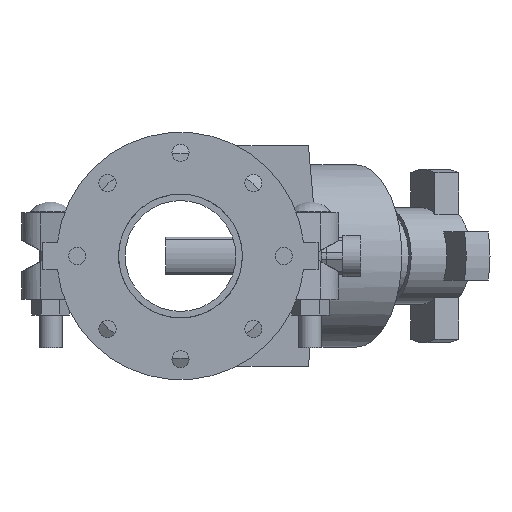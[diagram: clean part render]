
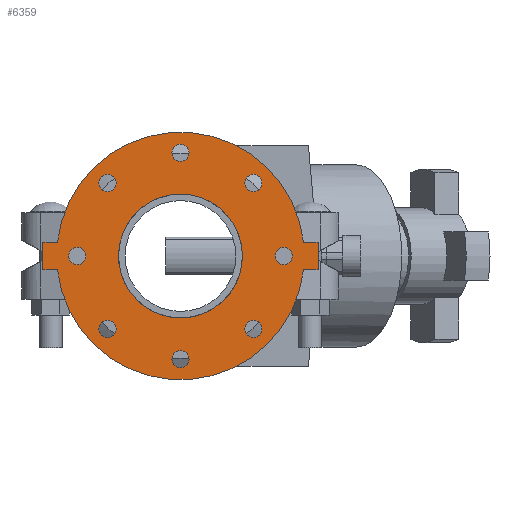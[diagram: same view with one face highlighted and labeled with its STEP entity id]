
A CAD part, front view. The second image highlights one B-rep face of the part: STEP entity #6359.
In plain terms, the highlighted planar face has unit normal (0, -1, 0) as drawn and (0, 0, 1) by its records, which use the part's own axes.
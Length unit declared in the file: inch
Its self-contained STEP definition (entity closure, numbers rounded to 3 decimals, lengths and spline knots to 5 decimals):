
#209=FACE_BOUND('',#843,.T.);
#210=FACE_BOUND('',#844,.T.);
#211=FACE_BOUND('',#845,.T.);
#212=FACE_BOUND('',#846,.T.);
#213=FACE_BOUND('',#847,.T.);
#214=FACE_BOUND('',#848,.T.);
#215=FACE_BOUND('',#849,.T.);
#216=FACE_BOUND('',#850,.T.);
#217=FACE_BOUND('',#851,.T.);
#280=PLANE('',#6926);
#489=FACE_OUTER_BOUND('',#842,.T.);
#842=EDGE_LOOP('',(#4145,#4146,#4147,#4148,#4149,#4150,#4151,#4152));
#843=EDGE_LOOP('',(#4153));
#844=EDGE_LOOP('',(#4154));
#845=EDGE_LOOP('',(#4155));
#846=EDGE_LOOP('',(#4156));
#847=EDGE_LOOP('',(#4157));
#848=EDGE_LOOP('',(#4158));
#849=EDGE_LOOP('',(#4159));
#850=EDGE_LOOP('',(#4160));
#851=EDGE_LOOP('',(#4161,#4162));
#1252=LINE('',#9754,#1722);
#1253=LINE('',#9757,#1723);
#1256=LINE('',#9762,#1726);
#1257=LINE('',#9765,#1727);
#1259=LINE('',#9768,#1729);
#1260=LINE('',#9770,#1730);
#1722=VECTOR('',#7750,0.3937);
#1723=VECTOR('',#7753,0.3937);
#1726=VECTOR('',#7758,0.3937);
#1727=VECTOR('',#7761,0.3937);
#1729=VECTOR('',#7765,0.3937);
#1730=VECTOR('',#7768,0.3937);
#2172=CIRCLE('',#6885,0.3125);
#2174=CIRCLE('',#6888,0.3125);
#2176=CIRCLE('',#6891,0.3125);
#2178=CIRCLE('',#6894,0.3125);
#2180=CIRCLE('',#6897,0.3125);
#2182=CIRCLE('',#6900,0.3125);
#2184=CIRCLE('',#6903,0.3125);
#2186=CIRCLE('',#6906,0.3125);
#2192=CIRCLE('',#6914,4.5);
#2193=CIRCLE('',#6916,2.25);
#2194=CIRCLE('',#6917,2.25);
#2195=CIRCLE('',#6919,4.5);
#2538=VERTEX_POINT('',#9665);
#2540=VERTEX_POINT('',#9671);
#2542=VERTEX_POINT('',#9677);
#2544=VERTEX_POINT('',#9683);
#2546=VERTEX_POINT('',#9689);
#2548=VERTEX_POINT('',#9695);
#2550=VERTEX_POINT('',#9701);
#2552=VERTEX_POINT('',#9707);
#2564=VERTEX_POINT('',#9734);
#2565=VERTEX_POINT('',#9736);
#2566=VERTEX_POINT('',#9740);
#2567=VERTEX_POINT('',#9742);
#2568=VERTEX_POINT('',#9746);
#2569=VERTEX_POINT('',#9748);
#2570=VERTEX_POINT('',#9752);
#2571=VERTEX_POINT('',#9756);
#2572=VERTEX_POINT('',#9760);
#2573=VERTEX_POINT('',#9764);
#3152=EDGE_CURVE('',#2538,#2538,#2172,.T.);
#3155=EDGE_CURVE('',#2540,#2540,#2174,.T.);
#3158=EDGE_CURVE('',#2542,#2542,#2176,.T.);
#3161=EDGE_CURVE('',#2544,#2544,#2178,.T.);
#3164=EDGE_CURVE('',#2546,#2546,#2180,.T.);
#3167=EDGE_CURVE('',#2548,#2548,#2182,.T.);
#3170=EDGE_CURVE('',#2550,#2550,#2184,.T.);
#3173=EDGE_CURVE('',#2552,#2552,#2186,.T.);
#3188=EDGE_CURVE('',#2564,#2565,#2192,.T.);
#3190=EDGE_CURVE('',#2567,#2566,#2193,.T.);
#3191=EDGE_CURVE('',#2566,#2567,#2194,.T.);
#3193=EDGE_CURVE('',#2569,#2568,#2195,.T.);
#3196=EDGE_CURVE('',#2565,#2570,#1252,.T.);
#3197=EDGE_CURVE('',#2571,#2569,#1253,.T.);
#3200=EDGE_CURVE('',#2568,#2572,#1256,.T.);
#3201=EDGE_CURVE('',#2573,#2564,#1257,.T.);
#3203=EDGE_CURVE('',#2572,#2573,#1259,.T.);
#3204=EDGE_CURVE('',#2570,#2571,#1260,.T.);
#4145=ORIENTED_EDGE('',*,*,#3200,.T.);
#4146=ORIENTED_EDGE('',*,*,#3203,.T.);
#4147=ORIENTED_EDGE('',*,*,#3201,.T.);
#4148=ORIENTED_EDGE('',*,*,#3188,.T.);
#4149=ORIENTED_EDGE('',*,*,#3196,.T.);
#4150=ORIENTED_EDGE('',*,*,#3204,.T.);
#4151=ORIENTED_EDGE('',*,*,#3197,.T.);
#4152=ORIENTED_EDGE('',*,*,#3193,.T.);
#4153=ORIENTED_EDGE('',*,*,#3152,.T.);
#4154=ORIENTED_EDGE('',*,*,#3155,.T.);
#4155=ORIENTED_EDGE('',*,*,#3158,.T.);
#4156=ORIENTED_EDGE('',*,*,#3161,.T.);
#4157=ORIENTED_EDGE('',*,*,#3164,.T.);
#4158=ORIENTED_EDGE('',*,*,#3167,.T.);
#4159=ORIENTED_EDGE('',*,*,#3170,.T.);
#4160=ORIENTED_EDGE('',*,*,#3173,.T.);
#4161=ORIENTED_EDGE('',*,*,#3190,.T.);
#4162=ORIENTED_EDGE('',*,*,#3191,.T.);
#6359=ADVANCED_FACE('',(#489,#209,#210,#211,#212,#213,#214,#215,#216,#217),
#280,.T.);
#6885=AXIS2_PLACEMENT_3D('',#9666,#7658,#7659);
#6888=AXIS2_PLACEMENT_3D('',#9672,#7665,#7666);
#6891=AXIS2_PLACEMENT_3D('',#9678,#7672,#7673);
#6894=AXIS2_PLACEMENT_3D('',#9684,#7679,#7680);
#6897=AXIS2_PLACEMENT_3D('',#9690,#7686,#7687);
#6900=AXIS2_PLACEMENT_3D('',#9696,#7693,#7694);
#6903=AXIS2_PLACEMENT_3D('',#9702,#7700,#7701);
#6906=AXIS2_PLACEMENT_3D('',#9708,#7707,#7708);
#6914=AXIS2_PLACEMENT_3D('',#9738,#7732,#7733);
#6916=AXIS2_PLACEMENT_3D('',#9743,#7737,#7738);
#6917=AXIS2_PLACEMENT_3D('',#9744,#7739,#7740);
#6919=AXIS2_PLACEMENT_3D('',#9749,#7744,#7745);
#6926=AXIS2_PLACEMENT_3D('',#9771,#7769,#7770);
#7658=DIRECTION('center_axis',(0.,0.,-1.));
#7659=DIRECTION('ref_axis',(-0.707,0.707,0.));
#7665=DIRECTION('center_axis',(0.,0.,-1.));
#7666=DIRECTION('ref_axis',(0.,1.,0.));
#7672=DIRECTION('center_axis',(0.,0.,-1.));
#7673=DIRECTION('ref_axis',(0.707,0.707,0.));
#7679=DIRECTION('center_axis',(0.,0.,-1.));
#7680=DIRECTION('ref_axis',(1.,0.,0.));
#7686=DIRECTION('center_axis',(0.,0.,-1.));
#7687=DIRECTION('ref_axis',(0.707,-0.707,0.));
#7693=DIRECTION('center_axis',(0.,0.,-1.));
#7694=DIRECTION('ref_axis',(0.,-1.,0.));
#7700=DIRECTION('center_axis',(0.,0.,-1.));
#7701=DIRECTION('ref_axis',(-0.707,-0.707,0.));
#7707=DIRECTION('center_axis',(0.,0.,-1.));
#7708=DIRECTION('ref_axis',(-1.,0.,0.));
#7732=DIRECTION('center_axis',(0.,0.,1.));
#7733=DIRECTION('ref_axis',(-1.,0.,0.));
#7737=DIRECTION('center_axis',(0.,0.,-1.));
#7738=DIRECTION('ref_axis',(-1.,0.,0.));
#7739=DIRECTION('center_axis',(0.,0.,-1.));
#7740=DIRECTION('ref_axis',(-1.,0.,0.));
#7744=DIRECTION('center_axis',(0.,0.,1.));
#7745=DIRECTION('ref_axis',(-1.,0.,0.));
#7750=DIRECTION('',(0.,1.,0.));
#7753=DIRECTION('',(0.,-1.,0.));
#7758=DIRECTION('',(0.,-1.,0.));
#7761=DIRECTION('',(0.,1.,0.));
#7765=DIRECTION('',(1.,0.,0.));
#7768=DIRECTION('',(-1.,0.,0.));
#7769=DIRECTION('center_axis',(0.,0.,1.));
#7770=DIRECTION('ref_axis',(1.,0.,0.));
#9665=CARTESIAN_POINT('',(-2.43068,2.43068,0.5));
#9666=CARTESIAN_POINT('Origin',(-2.65165,2.65165,0.5));
#9671=CARTESIAN_POINT('',(0.,3.4375,0.5));
#9672=CARTESIAN_POINT('Origin',(0.,3.75,0.5));
#9677=CARTESIAN_POINT('',(2.43068,2.43068,0.5));
#9678=CARTESIAN_POINT('Origin',(2.65165,2.65165,0.5));
#9683=CARTESIAN_POINT('',(3.4375,0.,0.5));
#9684=CARTESIAN_POINT('Origin',(3.75,0.,0.5));
#9689=CARTESIAN_POINT('',(2.43068,-2.43068,0.5));
#9690=CARTESIAN_POINT('Origin',(2.65165,-2.65165,0.5));
#9695=CARTESIAN_POINT('',(0.,-3.4375,0.5));
#9696=CARTESIAN_POINT('Origin',(0.,-3.75,0.5));
#9701=CARTESIAN_POINT('',(-2.43068,-2.43068,0.5));
#9702=CARTESIAN_POINT('Origin',(-2.65165,-2.65165,0.5));
#9707=CARTESIAN_POINT('',(-3.4375,0.,0.5));
#9708=CARTESIAN_POINT('Origin',(-3.75,0.,0.5));
#9734=CARTESIAN_POINT('',(0.5,-4.47214,0.5));
#9736=CARTESIAN_POINT('',(0.5,4.47214,0.5));
#9738=CARTESIAN_POINT('Origin',(0.,0.,0.5));
#9740=CARTESIAN_POINT('',(2.25,0.,0.5));
#9742=CARTESIAN_POINT('',(0.5,2.19374,0.5));
#9743=CARTESIAN_POINT('Origin',(0.,0.,0.5));
#9744=CARTESIAN_POINT('Origin',(0.,0.,0.5));
#9746=CARTESIAN_POINT('',(-0.5,-4.47214,0.5));
#9748=CARTESIAN_POINT('',(-0.5,4.47214,0.5));
#9749=CARTESIAN_POINT('Origin',(0.,0.,0.5));
#9752=CARTESIAN_POINT('',(0.5,5.,0.5));
#9754=CARTESIAN_POINT('',(0.5,5.,0.5));
#9756=CARTESIAN_POINT('',(-0.5,5.,0.5));
#9757=CARTESIAN_POINT('',(-0.5,-5.,0.5));
#9760=CARTESIAN_POINT('',(-0.5,-5.,0.5));
#9762=CARTESIAN_POINT('',(-0.5,-5.,0.5));
#9764=CARTESIAN_POINT('',(0.5,-5.,0.5));
#9765=CARTESIAN_POINT('',(0.5,5.,0.5));
#9768=CARTESIAN_POINT('',(0.5,-5.,0.5));
#9770=CARTESIAN_POINT('',(-0.5,5.,0.5));
#9771=CARTESIAN_POINT('Origin',(0.,0.,0.5));
